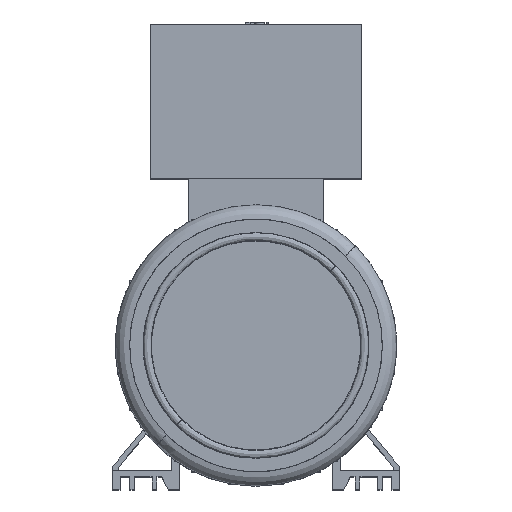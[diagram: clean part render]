
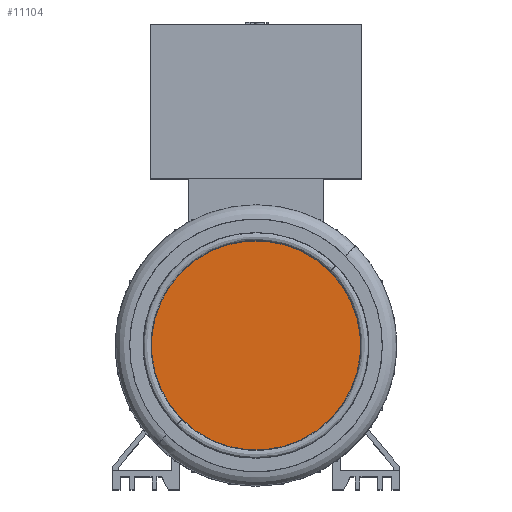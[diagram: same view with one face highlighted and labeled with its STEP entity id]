
A CAD part, top view. The second image highlights one B-rep face of the part: STEP entity #11104.
In plain terms, the highlighted planar face has unit normal (0, 0, 1).
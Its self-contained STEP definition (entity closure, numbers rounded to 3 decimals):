
#1510 = VERTEX_POINT ( 'NONE', #22504 ) ;
#2416 = AXIS2_PLACEMENT_3D ( 'NONE', #10131, #13521, #22745 ) ;
#2751 = VERTEX_POINT ( 'NONE', #7000 ) ;
#5121 = ORIENTED_EDGE ( 'NONE', *, *, #9429, .F. ) ;
#6218 = EDGE_LOOP ( 'NONE', ( #19187, #5121 ) ) ;
#6518 = EDGE_CURVE ( 'NONE', #1510, #2751, #17646, .T. ) ;
#7000 = CARTESIAN_POINT ( 'NONE',  ( 46.246, 46.246, 158.8 ) ) ;
#7138 = CARTESIAN_POINT ( 'NONE',  ( 0., 0., 158.8 ) ) ;
#8941 = CIRCLE ( 'NONE', #9842, 65.402 ) ;
#9429 = EDGE_CURVE ( 'NONE', #2751, #1510, #8941, .T. ) ;
#9842 = AXIS2_PLACEMENT_3D ( 'NONE', #10091, #13483, #15292 ) ;
#10091 = CARTESIAN_POINT ( 'NONE',  ( 0., 0., 158.8 ) ) ;
#10131 = CARTESIAN_POINT ( 'NONE',  ( -46.246, 46.246, 158.8 ) ) ;
#11104 = ADVANCED_FACE ( 'NONE', ( #12365 ), #15399, .F. ) ;
#12365 = FACE_OUTER_BOUND ( 'NONE', #6218, .T. ) ;
#13483 = DIRECTION ( 'NONE',  ( 0., 0., -1. ) ) ;
#13521 = DIRECTION ( 'NONE',  ( 0., 0., -1. ) ) ;
#15292 = DIRECTION ( 'NONE',  ( 0., 1., 0. ) ) ;
#15399 = PLANE ( 'NONE',  #2416 ) ;
#15999 = DIRECTION ( 'NONE',  ( 0., 0., -1. ) ) ;
#17591 = DIRECTION ( 'NONE',  ( 0., 1., 0. ) ) ;
#17646 = CIRCLE ( 'NONE', #21859, 65.402 ) ;
#19187 = ORIENTED_EDGE ( 'NONE', *, *, #6518, .F. ) ;
#21859 = AXIS2_PLACEMENT_3D ( 'NONE', #7138, #15999, #17591 ) ;
#22504 = CARTESIAN_POINT ( 'NONE',  ( -46.246, -46.246, 158.8 ) ) ;
#22745 = DIRECTION ( 'NONE',  ( 0., 1., 0. ) ) ;
